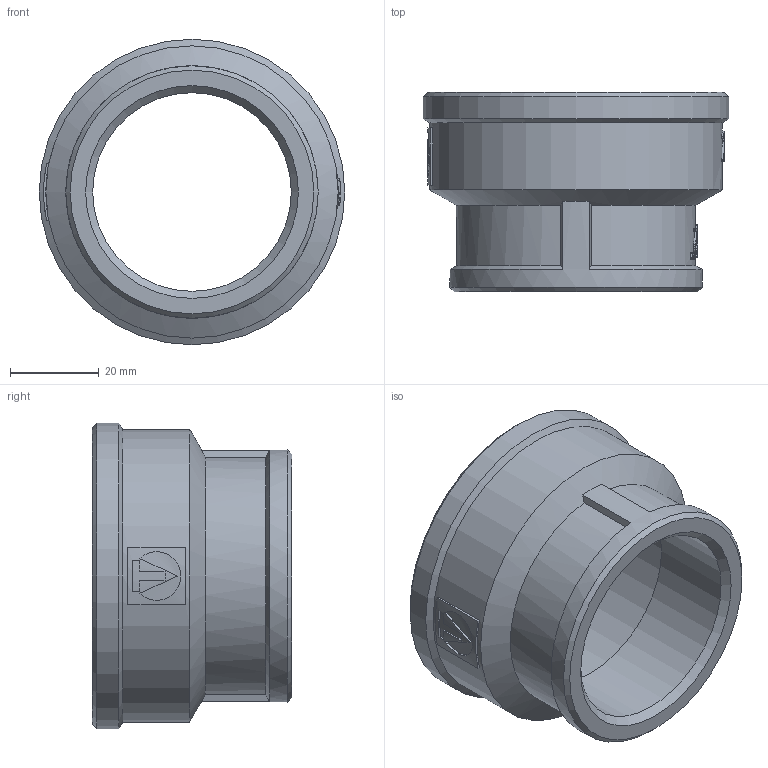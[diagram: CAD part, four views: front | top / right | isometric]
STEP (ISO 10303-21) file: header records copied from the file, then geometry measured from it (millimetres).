
FILE_DESCRIPTION(('STEP AP203'), '1');
FILE_NAME('ÂÐ.714361.012 - VTr.240.N.0908 Ìóôòà G2õG1 1-2', '2024-06-27T08:51:45', ('Boss'), (''), 'C3D Converter', 'C3D Toolkit', '');
FILE_SCHEMA(('CONFIG_CONTROL_DESIGN'));
Length unit declared in the file: millimetre
Products named in the file (1): ВР.714361.012
Bounding box: 69 x 45 x 69 mm (x, y, z)
Volume: 40690 mm3; surface area: 19187.6 mm2
Topology: 1 solids, 1 shells, 199 faces, 550 edges, 364 vertices
Faces by surface type: extrusion 108, plane 62, cylinder 20, cone 9
Full cylindrical faces by diameter (mm): 44.846 x1, 56.657 x1, 57 x1, 66 x1, 69 x1
Entity records: 9387 total; most frequent: CARTESIAN_POINT 4940, ORIENTED_EDGE 1074, DIRECTION 577, EDGE_CURVE 537, VERTEX_POINT 364, B_SPLINE_CURVE_WITH_KNOTS 334, VECTOR 301, EDGE_LOOP 225
